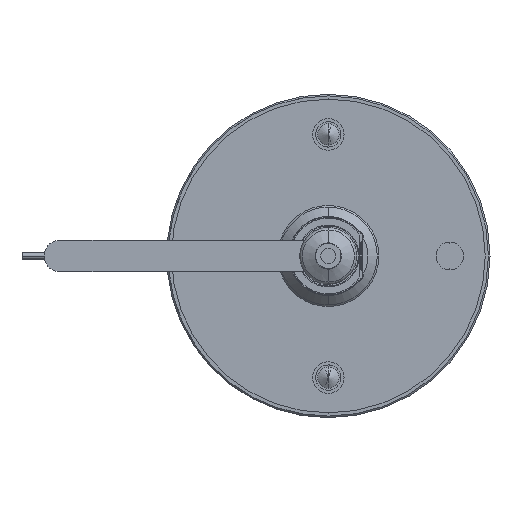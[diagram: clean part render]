
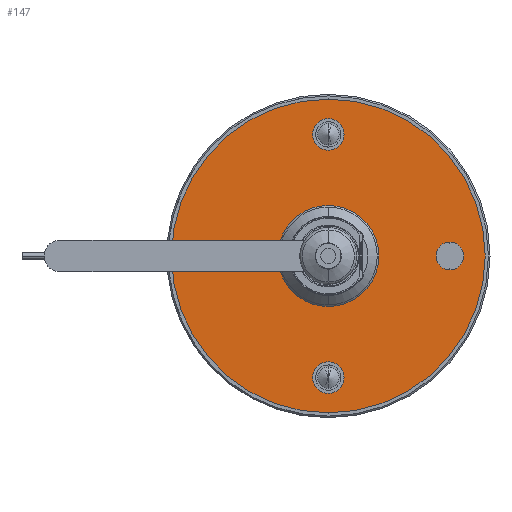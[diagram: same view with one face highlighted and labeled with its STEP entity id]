
A CAD part, front view. The second image highlights one B-rep face of the part: STEP entity #147.
In plain terms, the highlighted planar face has unit normal (0, -1, 0) as drawn and (0, 0, -1) by its records, which use the part's own axes.
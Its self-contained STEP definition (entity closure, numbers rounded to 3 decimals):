
#14 = AXIS2_PLACEMENT_3D ( 'NONE', #17650, #25601, #1624 ) ;
#147 = ADVANCED_FACE ( 'NONE', ( #6826, #862, #17987, #267, #18697, #2945 ), #8789, .T. ) ;
#267 = FACE_BOUND ( 'NONE', #13765, .T. ) ;
#630 = AXIS2_PLACEMENT_3D ( 'NONE', #6091, #22525, #4670 ) ;
#754 = EDGE_CURVE ( 'NONE', #16153, #14354, #1764, .T. ) ;
#823 = ORIENTED_EDGE ( 'NONE', *, *, #20938, .T. ) ;
#862 = FACE_BOUND ( 'NONE', #25753, .T. ) ;
#1072 = CIRCLE ( 'NONE', #4797, 10.5 ) ;
#1312 = VERTEX_POINT ( 'NONE', #6742 ) ;
#1485 = CARTESIAN_POINT ( 'NONE',  ( 4.4, 38.5, 0. ) ) ;
#1624 = DIRECTION ( 'NONE',  ( 1., 0., 0. ) ) ;
#1764 = CIRCLE ( 'NONE', #6302, 4.4 ) ;
#2039 = CARTESIAN_POINT ( 'NONE',  ( 38.5, 0., 0. ) ) ;
#2437 = EDGE_CURVE ( 'NONE', #9294, #21689, #17637, .T. ) ;
#2526 = EDGE_LOOP ( 'NONE', ( #24349, #11002 ) ) ;
#2945 = FACE_BOUND ( 'NONE', #20544, .T. ) ;
#3019 = VERTEX_POINT ( 'NONE', #24867 ) ;
#3194 = CIRCLE ( 'NONE', #5265, 5. ) ;
#3264 = CARTESIAN_POINT ( 'NONE',  ( 0., 38.5, 0. ) ) ;
#3710 = VERTEX_POINT ( 'NONE', #18142 ) ;
#4222 = AXIS2_PLACEMENT_3D ( 'NONE', #11975, #16036, #8057 ) ;
#4626 = ORIENTED_EDGE ( 'NONE', *, *, #754, .T. ) ;
#4670 = DIRECTION ( 'NONE',  ( -1., 0., 0. ) ) ;
#4797 = AXIS2_PLACEMENT_3D ( 'NONE', #13881, #11655, #21824 ) ;
#5265 = AXIS2_PLACEMENT_3D ( 'NONE', #10739, #15074, #18699 ) ;
#5363 = EDGE_CURVE ( 'NONE', #3019, #17344, #1072, .T. ) ;
#6091 = CARTESIAN_POINT ( 'NONE',  ( 38.5, 0., 0. ) ) ;
#6302 = AXIS2_PLACEMENT_3D ( 'NONE', #3264, #17339, #15266 ) ;
#6428 = DIRECTION ( 'NONE',  ( 0., 0., 1. ) ) ;
#6429 = CIRCLE ( 'NONE', #630, 5. ) ;
#6742 = CARTESIAN_POINT ( 'NONE',  ( 49.675, 0., 0. ) ) ;
#6826 = FACE_OUTER_BOUND ( 'NONE', #12548, .T. ) ;
#6908 = EDGE_CURVE ( 'NONE', #9684, #21813, #6429, .T. ) ;
#7395 = CARTESIAN_POINT ( 'NONE',  ( -4.4, 38.5, 0. ) ) ;
#7489 = EDGE_CURVE ( 'NONE', #21813, #9684, #7914, .T. ) ;
#7914 = CIRCLE ( 'NONE', #13359, 5. ) ;
#7992 = ORIENTED_EDGE ( 'NONE', *, *, #14755, .T. ) ;
#8057 = DIRECTION ( 'NONE',  ( -1., 0., 0. ) ) ;
#8718 = CIRCLE ( 'NONE', #14, 10.5 ) ;
#8741 = AXIS2_PLACEMENT_3D ( 'NONE', #15274, #9383, #21518 ) ;
#8789 = PLANE ( 'NONE',  #4222 ) ;
#9030 = CARTESIAN_POINT ( 'NONE',  ( -43.5, 0., 0. ) ) ;
#9294 = VERTEX_POINT ( 'NONE', #13350 ) ;
#9383 = DIRECTION ( 'NONE',  ( 0., 0., 1. ) ) ;
#9684 = VERTEX_POINT ( 'NONE', #16785 ) ;
#9990 = ORIENTED_EDGE ( 'NONE', *, *, #13024, .T. ) ;
#10042 = DIRECTION ( 'NONE',  ( -1., 0., 0. ) ) ;
#10739 = CARTESIAN_POINT ( 'NONE',  ( -38.5, 0., 0. ) ) ;
#11002 = ORIENTED_EDGE ( 'NONE', *, *, #20294, .T. ) ;
#11446 = ORIENTED_EDGE ( 'NONE', *, *, #5363, .T. ) ;
#11655 = DIRECTION ( 'NONE',  ( 0., 0., 1. ) ) ;
#11939 = CARTESIAN_POINT ( 'NONE',  ( -33.5, 0., 0. ) ) ;
#11961 = CARTESIAN_POINT ( 'NONE',  ( 10.5, 0., 0. ) ) ;
#11975 = CARTESIAN_POINT ( 'NONE',  ( 10.5, 0., 0. ) ) ;
#12009 = DIRECTION ( 'NONE',  ( 0., 0., 1. ) ) ;
#12113 = DIRECTION ( 'NONE',  ( -1., 0., 0. ) ) ;
#12168 = CARTESIAN_POINT ( 'NONE',  ( 33.5, 0., 0. ) ) ;
#12422 = AXIS2_PLACEMENT_3D ( 'NONE', #13212, #21415, #15689 ) ;
#12548 = EDGE_LOOP ( 'NONE', ( #7992, #9990 ) ) ;
#12594 = EDGE_CURVE ( 'NONE', #17695, #22673, #3194, .T. ) ;
#12879 = EDGE_CURVE ( 'NONE', #14354, #16153, #14452, .T. ) ;
#12893 = CIRCLE ( 'NONE', #15830, 5. ) ;
#13024 = EDGE_CURVE ( 'NONE', #3710, #1312, #20264, .T. ) ;
#13128 = DIRECTION ( 'NONE',  ( 0., 0., 1. ) ) ;
#13212 = CARTESIAN_POINT ( 'NONE',  ( 0., 0., 0. ) ) ;
#13350 = CARTESIAN_POINT ( 'NONE',  ( -4.4, -38.5, 0. ) ) ;
#13359 = AXIS2_PLACEMENT_3D ( 'NONE', #2039, #6428, #14410 ) ;
#13470 = AXIS2_PLACEMENT_3D ( 'NONE', #14959, #13128, #22894 ) ;
#13765 = EDGE_LOOP ( 'NONE', ( #23571, #22075 ) ) ;
#13857 = ORIENTED_EDGE ( 'NONE', *, *, #2437, .T. ) ;
#13881 = CARTESIAN_POINT ( 'NONE',  ( 0., 0., 0. ) ) ;
#14354 = VERTEX_POINT ( 'NONE', #7395 ) ;
#14410 = DIRECTION ( 'NONE',  ( -1., 0., 0. ) ) ;
#14417 = ORIENTED_EDGE ( 'NONE', *, *, #12879, .T. ) ;
#14452 = CIRCLE ( 'NONE', #16503, 4.4 ) ;
#14491 = DIRECTION ( 'NONE',  ( 0., 0., -1. ) ) ;
#14755 = EDGE_CURVE ( 'NONE', #1312, #3710, #22425, .T. ) ;
#14959 = CARTESIAN_POINT ( 'NONE',  ( 0., -38.5, 0. ) ) ;
#15074 = DIRECTION ( 'NONE',  ( 0., 0., 1. ) ) ;
#15266 = DIRECTION ( 'NONE',  ( -1., 0., 0. ) ) ;
#15274 = CARTESIAN_POINT ( 'NONE',  ( 0., -38.5, 0. ) ) ;
#15689 = DIRECTION ( 'NONE',  ( -1., 0., 0. ) ) ;
#15830 = AXIS2_PLACEMENT_3D ( 'NONE', #18109, #21896, #12113 ) ;
#16036 = DIRECTION ( 'NONE',  ( 0., 0., -1. ) ) ;
#16153 = VERTEX_POINT ( 'NONE', #1485 ) ;
#16503 = AXIS2_PLACEMENT_3D ( 'NONE', #23625, #12009, #10042 ) ;
#16785 = CARTESIAN_POINT ( 'NONE',  ( 43.5, 0., 0. ) ) ;
#17339 = DIRECTION ( 'NONE',  ( 0., 0., 1. ) ) ;
#17344 = VERTEX_POINT ( 'NONE', #11961 ) ;
#17365 = ORIENTED_EDGE ( 'NONE', *, *, #21297, .T. ) ;
#17388 = CARTESIAN_POINT ( 'NONE',  ( 4.4, -38.5, 0. ) ) ;
#17637 = CIRCLE ( 'NONE', #13470, 4.4 ) ;
#17650 = CARTESIAN_POINT ( 'NONE',  ( 0., 0., 0. ) ) ;
#17695 = VERTEX_POINT ( 'NONE', #9030 ) ;
#17987 = FACE_BOUND ( 'NONE', #24917, .T. ) ;
#18109 = CARTESIAN_POINT ( 'NONE',  ( -38.5, 0., 0. ) ) ;
#18142 = CARTESIAN_POINT ( 'NONE',  ( -49.675, 0., 0. ) ) ;
#18697 = FACE_BOUND ( 'NONE', #2526, .T. ) ;
#18699 = DIRECTION ( 'NONE',  ( -1., 0., 0. ) ) ;
#19995 = CIRCLE ( 'NONE', #8741, 4.4 ) ;
#20264 = CIRCLE ( 'NONE', #21925, 49.675 ) ;
#20294 = EDGE_CURVE ( 'NONE', #22673, #17695, #12893, .T. ) ;
#20544 = EDGE_LOOP ( 'NONE', ( #823, #11446 ) ) ;
#20582 = CARTESIAN_POINT ( 'NONE',  ( 0., 0., 0. ) ) ;
#20938 = EDGE_CURVE ( 'NONE', #17344, #3019, #8718, .T. ) ;
#21297 = EDGE_CURVE ( 'NONE', #21689, #9294, #19995, .T. ) ;
#21415 = DIRECTION ( 'NONE',  ( 0., 0., -1. ) ) ;
#21518 = DIRECTION ( 'NONE',  ( -1., 0., 0. ) ) ;
#21689 = VERTEX_POINT ( 'NONE', #17388 ) ;
#21813 = VERTEX_POINT ( 'NONE', #12168 ) ;
#21824 = DIRECTION ( 'NONE',  ( 1., 0., 0. ) ) ;
#21896 = DIRECTION ( 'NONE',  ( 0., 0., 1. ) ) ;
#21925 = AXIS2_PLACEMENT_3D ( 'NONE', #20582, #14491, #22678 ) ;
#22075 = ORIENTED_EDGE ( 'NONE', *, *, #6908, .T. ) ;
#22425 = CIRCLE ( 'NONE', #12422, 49.675 ) ;
#22525 = DIRECTION ( 'NONE',  ( 0., 0., 1. ) ) ;
#22673 = VERTEX_POINT ( 'NONE', #11939 ) ;
#22678 = DIRECTION ( 'NONE',  ( -1., 0., 0. ) ) ;
#22894 = DIRECTION ( 'NONE',  ( -1., 0., 0. ) ) ;
#23571 = ORIENTED_EDGE ( 'NONE', *, *, #7489, .T. ) ;
#23625 = CARTESIAN_POINT ( 'NONE',  ( 0., 38.5, 0. ) ) ;
#24349 = ORIENTED_EDGE ( 'NONE', *, *, #12594, .T. ) ;
#24867 = CARTESIAN_POINT ( 'NONE',  ( -10.5, 0., 0. ) ) ;
#24917 = EDGE_LOOP ( 'NONE', ( #14417, #4626 ) ) ;
#25601 = DIRECTION ( 'NONE',  ( 0., 0., 1. ) ) ;
#25753 = EDGE_LOOP ( 'NONE', ( #13857, #17365 ) ) ;
